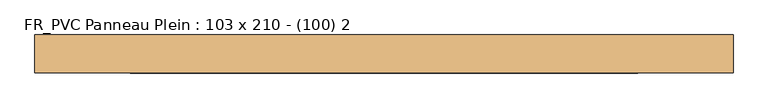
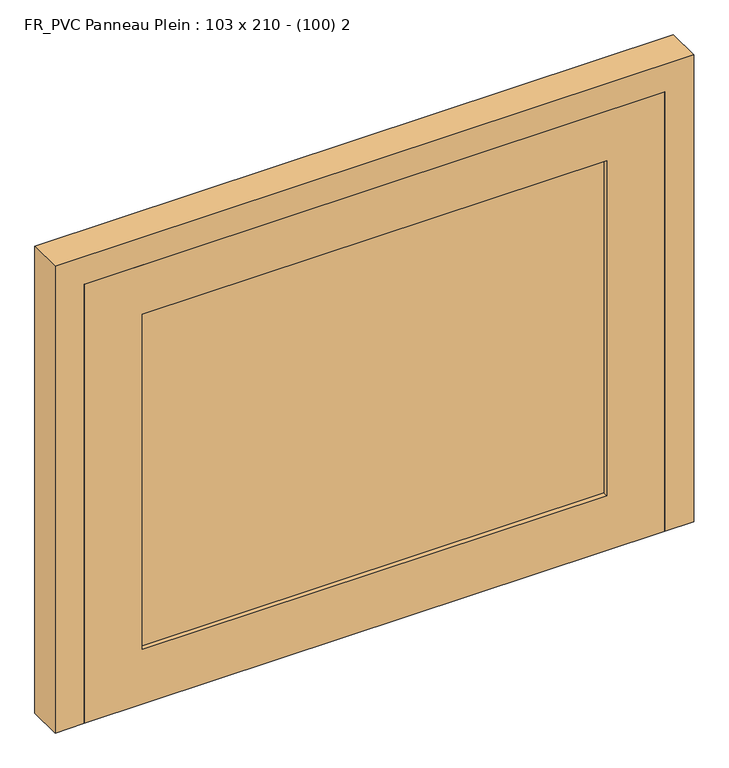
"""IFC4 building model written with IfcOpenShell, lengths in millimetres: door geometry, FR_PVC Panneau Plein : 103 x 210 - (100) 2."""

from ifc_helpers import new_model, si_unit, origin, place, context, project, spatial, faceted_brep, source, transform, mapped, element, save


def fr_pvc_panneau_plein_103_x_210_100_2_a151caea(model_context):
    return source(origin(), model_context, "Body", "Brep", [
        faceted_brep([(-550.0, -88.7935702, 0.0), (-550.0, -28.7935702, 0.0), (-485.0, -28.7935702, 0.0), (-485.0, -48.7935702, 0.0), (-500.0, -48.7935702, 0.0), (-500.0, -88.7935702, 0.0), (-550.0, -88.7935702, 850.0), (-550.0, -28.7935702, 850.0), (550.0, -28.7935702, 850.0), (550.0, -28.7935702, 0.0), (485.0, -28.7935702, 0.0), (485.0, -28.7935702, 785.0), (-485.0, -28.7935702, 785.0), (-485.0, -48.7935702, 785.0), (485.0, -48.7935702, 785.0), (485.0, -48.7935702, 0.0), (500.0, -48.7935702, 0.0), (500.0, -48.7935702, 800.0), (-500.0, -48.7935702, 800.0), (-500.0, -88.7935702, 800.0), (500.0, -88.7935702, 800.0), (500.0, -88.7935702, 0.0), (550.0, -88.7935702, 0.0), (550.0, -88.7935702, 850.0)], [[[0, 1, 2, 3, 4, 5]], [[1, 0, 6, 7]], [[2, 1, 7, 8, 9, 10, 11, 12]], [[3, 2, 12, 13]], [[4, 3, 13, 14, 15, 16, 17, 18]], [[5, 4, 18, 19]], [[0, 5, 19, 20, 21, 22, 23, 6]], [[9, 8, 23, 22]], [[10, 9, 22, 21, 16, 15]], [[11, 10, 15, 14]], [[17, 16, 21, 20]], [[7, 6, 23, 8]], [[12, 11, 14, 13]], [[18, 17, 20, 19]]]),
        faceted_brep([(-500.0, -88.7935702, 800.0), (-500.0, -88.7935702, 0.0), (500.0, -88.7935702, 0.0), (500.0, -88.7935702, 800.0), (400.0, -88.7935702, 710.0), (400.0, -88.7935702, 100.0), (-400.0, -88.7935702, 100.0), (-400.0, -88.7935702, 710.0), (-500.0, -48.7935702, 800.0), (500.0, -48.7935702, 800.0), (500.0, -48.7935702, 0.0), (-500.0, -48.7935702, 0.0), (-400.0, -48.7935702, 710.0), (-400.0, -48.7935702, 100.0), (400.0, -48.7935702, 100.0), (400.0, -48.7935702, 710.0), (400.0, -80.7935702, 710.0), (-400.0, -80.7935702, 710.0), (-400.0, -80.7935702, 100.0), (400.0, -80.7935702, 100.0), (-400.0, -56.7935702, 710.0), (400.0, -56.7935702, 710.0), (400.0, -56.7935702, 100.0), (-400.0, -56.7935702, 100.0)], [[[0, 1, 2, 3], [4, 5, 6, 7]], [[8, 9, 10, 11], [12, 13, 14, 15]], [[1, 0, 8, 11]], [[2, 1, 11, 10]], [[3, 2, 10, 9]], [[0, 3, 9, 8]], [[16, 17, 18, 19]], [[16, 19, 5, 4]], [[19, 18, 6, 5]], [[18, 17, 7, 6]], [[17, 16, 4, 7]], [[20, 21, 22, 23]], [[20, 23, 13, 12]], [[23, 22, 14, 13]], [[22, 21, 15, 14]], [[21, 20, 12, 15]]]),
    ])


if __name__ == "__main__":
    model = new_model("IFC4")
    model_context = context("Model", 3, world=origin())
    ifc_project = project(units=[si_unit("LENGTHUNIT", "METRE", prefix="MILLI")], contexts=[model_context])
    site = spatial("IfcSite", under=ifc_project)
    building = spatial("IfcBuilding", under=site)
    placement = place(None, origin())
    fr_pvc_panneau_plein_103_x_210_100_2_shape = fr_pvc_panneau_plein_103_x_210_100_2_a151caea(model_context)
    element("IfcDoor", 1, ObjectType="FR_PVC Panneau Plein : 103 x 210 - (100) 2", at=placement, inside=building, context=model_context, shape_type="MappedRepresentation", body=[
        mapped(fr_pvc_panneau_plein_103_x_210_100_2_shape, transform((0.0, 0.0, 0.0), x_axis=(1.0, 0.0, 0.0), y_axis=(0.0, 1.0, 0.0), z_axis=(0.0, 0.0, 1.0))),
    ])
    save(model, "model.ifc")
